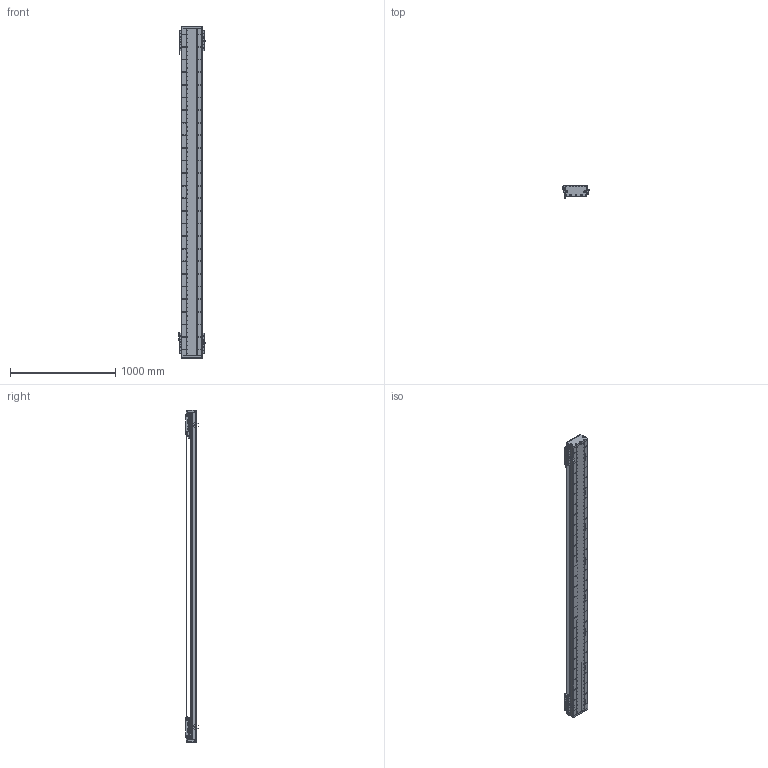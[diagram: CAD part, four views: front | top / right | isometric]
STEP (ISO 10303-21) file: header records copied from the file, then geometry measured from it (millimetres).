
FILE_DESCRIPTION (( 'STEP AP203' ), '1' );
FILE_NAME ('DA-C195-2-C2-T2660-C010-0.2 眻盄萇儂.STEP', '2025-08-14T02:13:16', ( '' ), ( '' ), 'SwSTEP 2.0', 'SolidWorks 2019', '' );
FILE_SCHEMA (( 'CONFIG_CONTROL_DESIGN' ));
Length unit declared in the file: millimetre
Products named in the file (19): LMT黍杅芛-1; PM-T45ㄗ侂狟ㄘ-1; DKW-GYP-ZJ-00 笢潔嫖萇覜茼え-1; DA165-GYP-00 光电感应片(默认)-1; CU195-C2賑輸-俋楷-1; DA-C195-2-C2-T2660-C010-0.2 眻盄萇儂; DA95-HXJ-00 遣喳砎蝶-1; PM-Y65嫖萇羲壽郪璃-1; DA195詩湍嶺輸-1; IU-CU195-L 菁釱絳寢-1; DA195詩湍菜輸-1; DKW-KGZ-ZJ-00 中间光电开关支架-1; MS200 棠掑喜S315-T1740-1; DKW168-HXJ-ZJ-00 笢潔滅袉砎蝶-1; DA195詩湍裔啣-1; 葩璃 DA95-GT-T-00-1; DA195詩湍郪璃-1; IU-CU195-L-00 菁釱(L3120); DA-C195-GD-DB-H-00 傷啣-1
Assembly tree (37 placements, depth 3):
  DA-C195-2-C2-T2660-C010-0.2 眻盄萇儂
    DA195詩湍郪璃-1
      DA195詩湍菜輸-1  x2
      DA195詩湍裔啣-1
      DA195詩湍嶺輸-1  x2
      DA95-HXJ-00 遣喳砎蝶-1  x8
      DA-C195-GD-DB-H-00 傷啣-1  x2
    IU-CU195-L 菁釱絳寢-1
      IU-CU195-L-00 菁釱(L3120)
      葩璃 DA95-GT-T-00-1  x4
    LMT黍杅芛-1  x2
    MS200 棠掑喜S315-T1740-1
    PM-T45ㄗ侂狟ㄘ-1  x4
    DA165-GYP-00 光电感应片(默认)-1  x2
    PM-Y65嫖萇羲壽郪璃-1
    DKW168-HXJ-ZJ-00 笢潔滅袉砎蝶-1
    DKW-GYP-ZJ-00 笢潔嫖萇覜茼え-1
    DKW-KGZ-ZJ-00 中间光电开关支架-1
    CU195-C2賑輸-俋楷-1  x2
Bounding box: 258.2 x 115.45 x 3160 mm (x, y, z)
Volume: 18980197.1 mm3; surface area: 5558359.1 mm2
Topology: 114 solids, 242 shells, 7225 faces, 19415 edges, 12113 vertices
Faces by surface type: cylinder 3508, plane 2633, cone 916, torus 88, sphere 72, bspline 8
Entity records: 162183 total; most frequent: CARTESIAN_POINT 44843, ORIENTED_EDGE 24662, DIRECTION 23290, EDGE_CURVE 12331, AXIS2_PLACEMENT_3D 8601, VERTEX_POINT 8000, VECTOR 6088, LINE 6088
